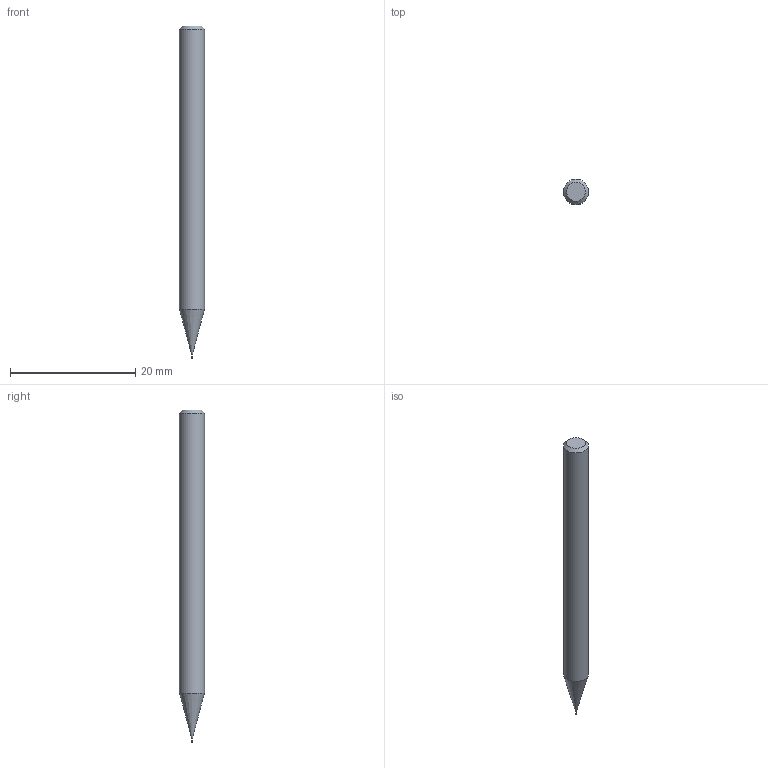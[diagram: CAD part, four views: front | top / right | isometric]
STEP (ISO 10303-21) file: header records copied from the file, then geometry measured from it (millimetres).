
FILE_DESCRIPTION((''),'2;1');
FILE_NAME('C:\Users\nsx150\AppData\Local\Temp\Mastercam 2021\LJSIDMOTM8\TEMP.step','2021-08-03T14:20:51',(''),(''),'STEP Write','Mastercam 2021 ... CNC Software, Inc.','');
FILE_SCHEMA(('AUTOMOTIVE_DESIGN'));
Length unit declared in the file: millimetre
Products named in the file (1): None
Bounding box: 4 x 4 x 53 mm (x, y, z)
Volume: 597.6 mm3; surface area: 625.1 mm2
Topology: 2 solids, 2 shells, 9 faces, 12 edges, 7 vertices
Faces by surface type: plane 4, cylinder 3, cone 2
Full cylindrical faces by diameter (mm): 0.08 x1, 0.1 x1, 4 x1
Entity records: 211 total; most frequent: DIRECTION 36, CARTESIAN_POINT 25, AXIS2_PLACEMENT_3D 18, ORIENTED_EDGE 14, EDGE_LOOP 14, STYLED_ITEM 12, ADVANCED_FACE 9, FACE_BOUND 8
